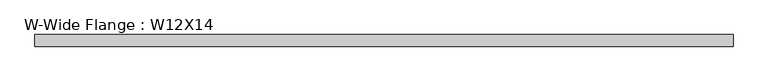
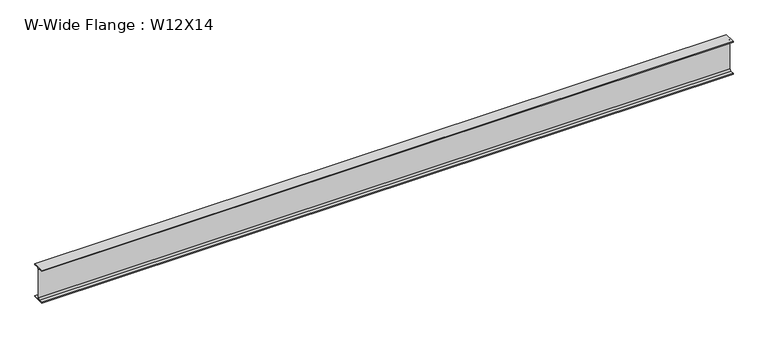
"""IFC4 building model written with IfcOpenShell, lengths in millimetres: beam geometry, W-Wide Flange : W12X14."""

import ifcopenshell
import ifcopenshell.guid

model = None  # the IFC model being written
_history = None  # IfcOwnerHistory: only IFC2X3 demands one
_inside = {}  # id of a spatial element -> (the spatial element, [elements in it])
_under = {}  # id of a project, library or spatial element -> (it, [spatial elements below it])
_declared = {}  # id of a project -> (the project, [libraries it declares])
_typed = {}  # id of a type object -> (the type object, [elements of that type])
_made_of = {}  # id of a material, layer set ... -> (it, [elements and type objects made of it])


def new_model(schema):
    """Start an empty IFC model of exactly this schema.

    Asked for "IFC4X3", IfcOpenShell would pick the latest addendum, in which some entities
    have other attributes; the version numbers below select the first issue.
    IFC2X3 requires an IfcOwnerHistory on every rooted entity: one is made here for all.
    """
    global model, _history
    if schema == "IFC4X3":
        model = ifcopenshell.file(schema_version=(4, 3, 0, 0))
    else:
        model = ifcopenshell.file(schema=schema)
    _inside.clear()
    _under.clear()
    _declared.clear()
    _typed.clear()
    _made_of.clear()
    _history = None
    if model.schema == "IFC2X3":
        org = make("IfcOrganization", Name="unknown")
        user = make(
            "IfcPersonAndOrganization",
            ThePerson=make("IfcPerson", FamilyName="unknown"),
            TheOrganization=org,
        )
        app = make(
            "IfcApplication",
            ApplicationDeveloper=org,
            Version="unknown",
            ApplicationFullName="unknown",
            ApplicationIdentifier="unknown",
        )
        _history = make(
            "IfcOwnerHistory",
            OwningUser=user,
            OwningApplication=app,
            ChangeAction="ADDED",
            CreationDate=0,
        )
    return model


def make(cls, **values):
    """One entity of the class cls with the attributes given. An attribute that is None is left unset."""
    return model.create_entity(
        cls, **{name: value for name, value in values.items() if value is not None}
    )


def rooted(cls, **values):
    """An entity with a GlobalId (a new one), such as an element, a storey or a relation."""
    return make(cls, GlobalId=ifcopenshell.guid.new(), OwnerHistory=_history, **values)


def si_unit(unit_type, name, prefix=None):
    """IfcSIUnit, for example si_unit("LENGTHUNIT", "METRE", prefix="MILLI")."""
    return make("IfcSIUnit", UnitType=unit_type, Prefix=prefix, Name=name)


def assignment(units):
    """IfcUnitAssignment: the units of a project."""
    return None if units is None else make("IfcUnitAssignment", Units=units)


def point(xyz):
    """IfcCartesianPoint."""
    return None if xyz is None else make("IfcCartesianPoint", Coordinates=xyz)


def direction(xyz):
    """IfcDirection."""
    return None if xyz is None else make("IfcDirection", DirectionRatios=xyz)


def frame(location, z_axis=None, x_axis=None):
    """IfcAxis2Placement3D, a coordinate frame: its origin and axes. An axis left out is left unset."""
    return make(
        "IfcAxis2Placement3D",
        Location=point(location),
        Axis=direction(z_axis),
        RefDirection=direction(x_axis),
    )


def frame_2d(location, x_axis=None):
    """IfcAxis2Placement2D, a coordinate frame in the plane: its origin and x axis."""
    return make(
        "IfcAxis2Placement2D", Location=point(location), RefDirection=direction(x_axis)
    )


def origin():
    """The frame at (0, 0, 0) with its axes left unset."""
    return frame((0.0, 0.0, 0.0))


def place(relative_to, where):
    """IfcLocalPlacement: puts the frame where relative to a parent placement (None: the world)."""
    return make(
        "IfcLocalPlacement", PlacementRelTo=relative_to, RelativePlacement=where
    )


def context(
    kind, dimensions, precision=None, world=None, true_north=None, identifier=None
):
    """IfcGeometricRepresentationContext, for example the 3D "Model" context."""
    return make(
        "IfcGeometricRepresentationContext",
        ContextIdentifier=identifier,
        ContextType=kind,
        CoordinateSpaceDimension=dimensions,
        Precision=precision,
        WorldCoordinateSystem=world,
        TrueNorth=true_north,
    )


def project(units=None, contexts=None):
    """IfcProject with its units and contexts."""
    return rooted(
        "IfcProject",
        Name="project",
        RepresentationContexts=contexts,
        UnitsInContext=assignment(units),
    )


def spatial(cls, under=None, at=None, **own):
    """A site, building, storey or space (cls), placed at a placement, below another one or the project."""
    s = rooted(cls, ObjectPlacement=at, **own)
    if under is not None:
        _under.setdefault(under.id(), (under, []))[1].append(s)
    return s


def polyline(points):
    """IfcPolyline through the points."""
    return make("IfcPolyline", Points=[point(p) for p in points])


def circle_curve(where, radius):
    """IfcCircle in the frame where."""
    return make("IfcCircle", Position=where, Radius=radius)


def trimmed(basis, trim1, trim2, sense, master):
    """IfcTrimmedCurve: the piece of a basis curve between two trims."""
    return make(
        "IfcTrimmedCurve",
        BasisCurve=basis,
        Trim1=trim1,
        Trim2=trim2,
        SenseAgreement=sense,
        MasterRepresentation=master,
    )


def segment(curve, same_sense, transition):
    """IfcCompositeCurveSegment."""
    return make(
        "IfcCompositeCurveSegment",
        Transition=transition,
        SameSense=same_sense,
        ParentCurve=curve,
    )


def composite_curve(segments, self_intersect=None):
    """IfcCompositeCurve: segments joined end to end."""
    return make("IfcCompositeCurve", Segments=segments, SelfIntersect=self_intersect)


def outline(outer, holes=None, kind="AREA"):
    """IfcArbitraryClosedProfileDef: a profile drawn as a closed curve; with holes, ...WithVoids."""
    if holes is None:
        return make("IfcArbitraryClosedProfileDef", ProfileType=kind, OuterCurve=outer)
    return make(
        "IfcArbitraryProfileDefWithVoids",
        ProfileType=kind,
        OuterCurve=outer,
        InnerCurves=holes,
    )


def extrude(swept, where, along, depth):
    """IfcExtrudedAreaSolid: the profile swept, set in the frame where, extruded along a direction by depth."""
    return make(
        "IfcExtrudedAreaSolid",
        SweptArea=swept,
        Position=where,
        ExtrudedDirection=direction(along),
        Depth=depth,
    )


def shape(context_of_items, identifier, shape_type, items):
    """IfcShapeRepresentation: the items that make up one representation, for example the "Body"."""
    return make(
        "IfcShapeRepresentation",
        ContextOfItems=context_of_items,
        RepresentationIdentifier=identifier,
        RepresentationType=shape_type,
        Items=items,
    )


def source(mapping_origin, context_of_items, identifier, shape_type, items):
    """IfcRepresentationMap: a shape defined once, which mapped items show again and again."""
    return make(
        "IfcRepresentationMap",
        MappingOrigin=mapping_origin,
        MappedRepresentation=shape(context_of_items, identifier, shape_type, items),
    )


def transform(
    local_origin,
    x_axis=None,
    y_axis=None,
    z_axis=None,
    scale=None,
    scale2=None,
    scale3=None,
    uniform=True,
):
    """IfcCartesianTransformationOperator3D, or its non-uniform kind. x_axis, y_axis, z_axis: its Axis1, 2, 3."""
    if uniform:
        return make(
            "IfcCartesianTransformationOperator3D",
            Axis1=direction(x_axis),
            Axis2=direction(y_axis),
            LocalOrigin=point(local_origin),
            Scale=scale,
            Axis3=direction(z_axis),
        )
    return make(
        "IfcCartesianTransformationOperator3DnonUniform",
        Axis1=direction(x_axis),
        Axis2=direction(y_axis),
        LocalOrigin=point(local_origin),
        Scale=scale,
        Axis3=direction(z_axis),
        Scale2=scale2,
        Scale3=scale3,
    )


def mapped(mapping_source, mapping_target):
    """IfcMappedItem: shows the shape of a source again, moved by a transform."""
    return make(
        "IfcMappedItem", MappingSource=mapping_source, MappingTarget=mapping_target
    )


def made_of(thing, what):
    """Note that an element or type object is made of a material, layer set ...; save() writes the relation."""
    if what is not None:
        _made_of.setdefault(what.id(), (what, []))[1].append(thing)
    return thing


def element(
    cls,
    number,
    at=None,
    inside=None,
    cuts=None,
    type_object=None,
    material=None,
    context=None,
    identifier="Body",
    shape_type=None,
    held_by="IfcProductDefinitionShape",
    body=None,
    shapes=None,
    **own,
):
    """One element of the class cls, such as IfcWall. Its Tag is "e" and its number.

    at: its placement. inside: the storey or other place that contains it. cuts: it is an
    opening in that element (IfcRelVoidsElement). A single representation is given by context,
    identifier, shape_type and body (its items); several are given by shapes. held_by: the class
    of the entity that holds the representations. save() writes the other relations.
    """
    e = rooted(cls, Tag="e%d" % number, ObjectPlacement=at, **own)
    if body is not None:
        shapes = [shape(context, identifier, shape_type, body)]
    if shapes is not None:
        e.Representation = make(held_by, Representations=shapes)
    if inside is not None:
        _inside.setdefault(inside.id(), (inside, []))[1].append(e)
    if cuts is not None:
        rooted(
            "IfcRelVoidsElement", RelatingBuildingElement=cuts, RelatedOpeningElement=e
        )
    if type_object is not None:
        _typed.setdefault(type_object.id(), (type_object, []))[1].append(e)
    return made_of(e, material)


def aggregate(whole, parts):
    """IfcRelAggregates: a whole, such as a stair, and the parts it consists of."""
    return rooted("IfcRelAggregates", RelatingObject=whole, RelatedObjects=parts)


def save(model, path):
    """Write the relations noted so far, then the file.

    IfcRelAggregates (storeys below a building ...), IfcRelContainedInSpatialStructure (elements
    in a storey), IfcRelDefinesByType, IfcRelAssociatesMaterial and IfcRelDeclares: one each for
    every whole, place, type object, material and project.
    """
    for whole, parts in _under.values():
        aggregate(whole, parts)
    for where, things in _inside.values():
        rooted(
            "IfcRelContainedInSpatialStructure",
            RelatedElements=things,
            RelatingStructure=where,
        )
    for kind, things in _typed.values():
        rooted("IfcRelDefinesByType", RelatedObjects=things, RelatingType=kind)
    for what, things in _made_of.values():
        rooted("IfcRelAssociatesMaterial", RelatedObjects=things, RelatingMaterial=what)
    for by, libraries in _declared.values():
        rooted("IfcRelDeclares", RelatingContext=by, RelatedDefinitions=libraries)
    model.write(path)


def w_wide_flange_w12x14_dde53845(model_context):
    return source(origin(), model_context, "Body", "SweptSolid", [
        extrude(outline(composite_curve([segment(polyline([(50.419, -145.415), (50.419, -151.13), (-50.419, -151.13), (-50.419, -145.415), (-15.875, -145.415)]), True, "CONTINUOUS"), segment(trimmed(circle_curve(frame_2d((-15.875, -132.08)), 13.335), [point((-15.875, -145.415))], [point((-2.54, -132.08))], True, "CARTESIAN"), True, "CONTINUOUS"), segment(polyline([(-2.54, -132.08), (-2.54, 132.08)]), True, "CONTINUOUS"), segment(trimmed(circle_curve(frame_2d((-15.875, 132.08)), 13.335), [point((-2.54, 132.08))], [point((-15.875, 145.415))], True, "CARTESIAN"), True, "CONTINUOUS"), segment(polyline([(-15.875, 145.415), (-50.419, 145.415), (-50.419, 151.13), (50.419, 151.13), (50.419, 145.415), (15.875, 145.415)]), True, "CONTINUOUS"), segment(trimmed(circle_curve(frame_2d((15.875, 132.08)), 13.335), [point((15.875, 145.415))], [point((2.54, 132.08))], True, "CARTESIAN"), True, "CONTINUOUS"), segment(polyline([(2.54, 132.08), (2.54, -132.08)]), True, "CONTINUOUS"), segment(trimmed(circle_curve(frame_2d((15.875, -132.08)), 13.335), [point((2.54, -132.08))], [point((15.875, -145.415))], True, "CARTESIAN"), True, "CONTINUOUS"), segment(polyline([(15.875, -145.415), (50.419, -145.415)]), True, "CONTINUOUS")], self_intersect=False)), frame((-2995.0171875, 0.0, 0.0), z_axis=(1.0, 0.0, 0.0), x_axis=(0.0, 1.0, 0.0)), (0.0, 0.0, 1.0), 6072.584375),
    ])


if __name__ == "__main__":
    model = new_model("IFC4")
    model_context = context("Model", 3, world=origin())
    ifc_project = project(units=[si_unit("LENGTHUNIT", "METRE", prefix="MILLI")], contexts=[model_context])
    site = spatial("IfcSite", under=ifc_project)
    building = spatial("IfcBuilding", under=site)
    placement = place(None, origin())
    w_wide_flange_w12x14_shape = w_wide_flange_w12x14_dde53845(model_context)
    element("IfcBeam", 1, ObjectType="W-Wide Flange : W12X14", at=placement, inside=building, context=model_context, shape_type="MappedRepresentation", body=[
        mapped(w_wide_flange_w12x14_shape, transform((0.0, 0.0, 0.0), x_axis=(1.0, 0.0, 0.0), y_axis=(0.0, 1.0, 0.0), z_axis=(0.0, 0.0, 1.0))),
    ])
    save(model, "model.ifc")
